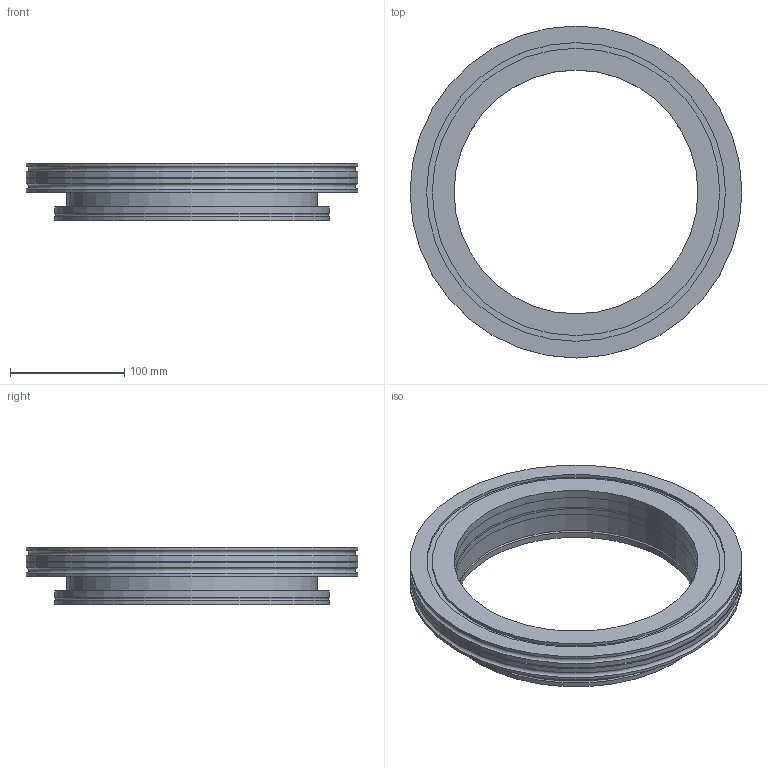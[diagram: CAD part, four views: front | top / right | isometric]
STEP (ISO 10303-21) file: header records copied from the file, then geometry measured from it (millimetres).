
FILE_DESCRIPTION( ( 'Unknown' ), '1' );
FILE_NAME( 'X:/Daten ( aktueller Bestand )/Projekte und Zeichnungen/Solid Edge/9 ISO-K Verzweigungen/ISO-K-Reduzierstücke/6167.stp', 'Unknown', ( 'Unknown' ), ( 'Unknown' ), 'XStep 1.0', 'Unknown', ' ' );
FILE_SCHEMA( ( 'automotive_design' ) );
Length unit declared in the file: millimetre
Products named in the file (4): Assem1; 6167-1; 6167-2; 6514
Bounding box: 290 x 290 x 50 mm (x, y, z)
Volume: 986855.4 mm3; surface area: 361751.2 mm2
Topology: 6 solids, 6 shells, 66 faces, 104 edges, 66 vertices
Faces by surface type: cylinder 32, plane 28, torus 4, cone 2
Full cylindrical faces by diameter (mm): 213 x6, 219 x2, 219.5 x2, 220 x2, 225 x2, 235 x2, 240 x4, 251 x2, 261 x2, 275 x2, 285 x2, 290 x4
Entity records: 777 total; most frequent: DIRECTION 140, CARTESIAN_POINT 103, AXIS2_PLACEMENT_3D 70, EDGE_LOOP 66, ORIENTED_EDGE 66, FACE_OUTER_BOUND 51, ADVANCED_FACE 33, EDGE_CURVE 33
